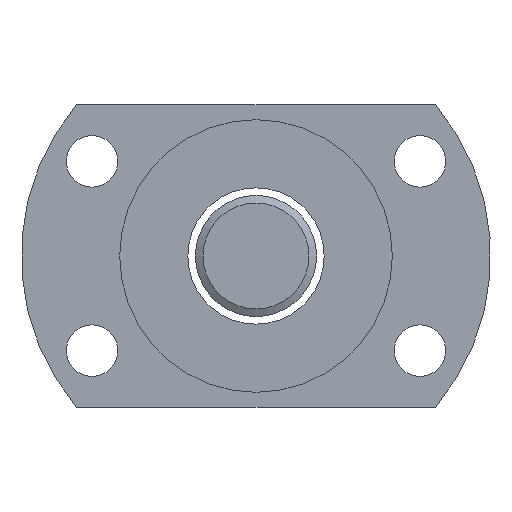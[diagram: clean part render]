
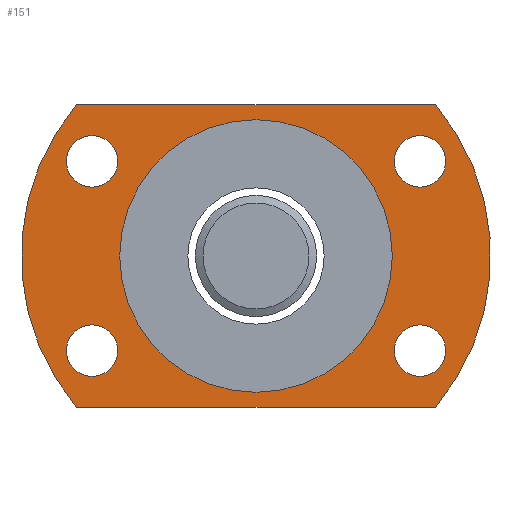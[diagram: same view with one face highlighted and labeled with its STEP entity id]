
A CAD part, left-side view. The second image highlights one B-rep face of the part: STEP entity #151.
In plain terms, the highlighted planar face has unit normal (-1, 0, 0).
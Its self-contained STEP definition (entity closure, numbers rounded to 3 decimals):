
#115=LINE('',#547,#123);
#119=LINE('',#574,#127);
#123=VECTOR('',#458,1.);
#127=VECTOR('',#488,1.);
#134=PLANE('',#416);
#151=ADVANCED_FACE('',(#191,#192,#193,#194,#195,#196),#134,.F.);
#191=FACE_BOUND('',#231,.T.);
#192=FACE_BOUND('',#232,.T.);
#193=FACE_BOUND('',#233,.T.);
#194=FACE_BOUND('',#234,.T.);
#195=FACE_BOUND('',#235,.T.);
#196=FACE_BOUND('',#236,.T.);
#231=EDGE_LOOP('',(#288,#289,#290,#291));
#232=EDGE_LOOP('',(#292));
#233=EDGE_LOOP('',(#293));
#234=EDGE_LOOP('',(#294));
#235=EDGE_LOOP('',(#295));
#236=EDGE_LOOP('',(#296));
#288=ORIENTED_EDGE('',*,*,#337,.F.);
#289=ORIENTED_EDGE('',*,*,#353,.F.);
#290=ORIENTED_EDGE('',*,*,#344,.F.);
#291=ORIENTED_EDGE('',*,*,#341,.F.);
#292=ORIENTED_EDGE('',*,*,#352,.F.);
#293=ORIENTED_EDGE('',*,*,#350,.F.);
#294=ORIENTED_EDGE('',*,*,#332,.T.);
#295=ORIENTED_EDGE('',*,*,#348,.T.);
#296=ORIENTED_EDGE('',*,*,#356,.T.);
#306=VERTEX_POINT('',#524);
#311=VERTEX_POINT('',#539);
#312=VERTEX_POINT('',#540);
#315=VERTEX_POINT('',#548);
#317=VERTEX_POINT('',#554);
#320=VERTEX_POINT('',#562);
#322=VERTEX_POINT('',#567);
#324=VERTEX_POINT('',#572);
#326=VERTEX_POINT('',#580);
#332=EDGE_CURVE('',#306,#306,#362,.T.);
#337=EDGE_CURVE('',#311,#312,#367,.T.);
#341=EDGE_CURVE('',#312,#315,#115,.T.);
#344=EDGE_CURVE('',#315,#317,#369,.T.);
#348=EDGE_CURVE('',#320,#320,#372,.T.);
#350=EDGE_CURVE('',#322,#322,#374,.T.);
#352=EDGE_CURVE('',#324,#324,#376,.T.);
#353=EDGE_CURVE('',#317,#311,#119,.T.);
#356=EDGE_CURVE('',#326,#326,#378,.T.);
#362=CIRCLE('',#385,9.);
#367=CIRCLE('',#395,15.5);
#369=CIRCLE('',#399,15.5);
#372=CIRCLE('',#403,1.7);
#374=CIRCLE('',#406,1.7);
#376=CIRCLE('',#409,1.7);
#378=CIRCLE('',#413,1.7);
#385=AXIS2_PLACEMENT_3D('',#523,#430,#431);
#395=AXIS2_PLACEMENT_3D('',#538,#450,#451);
#399=AXIS2_PLACEMENT_3D('',#553,#463,#464);
#403=AXIS2_PLACEMENT_3D('',#561,#472,#473);
#406=AXIS2_PLACEMENT_3D('',#566,#478,#479);
#409=AXIS2_PLACEMENT_3D('',#571,#484,#485);
#413=AXIS2_PLACEMENT_3D('',#579,#494,#495);
#416=AXIS2_PLACEMENT_3D('',#583,#500,#501);
#430=DIRECTION('',(1.,0.,0.));
#431=DIRECTION('',(0.,0.,-1.));
#450=DIRECTION('',(1.,0.,0.));
#451=DIRECTION('',(0.,0.,-1.));
#458=DIRECTION('',(0.,-1.,0.));
#463=DIRECTION('',(1.,0.,0.));
#464=DIRECTION('',(0.,0.,-1.));
#472=DIRECTION('',(1.,0.,0.));
#473=DIRECTION('',(0.,0.,-1.));
#478=DIRECTION('',(-1.,0.,0.));
#479=DIRECTION('',(0.,0.,1.));
#484=DIRECTION('',(-1.,0.,0.));
#485=DIRECTION('',(0.,0.,1.));
#488=DIRECTION('',(0.,1.,0.));
#494=DIRECTION('',(1.,0.,0.));
#495=DIRECTION('',(0.,0.,-1.));
#500=DIRECTION('',(1.,0.,0.));
#501=DIRECTION('',(0.,0.,-1.));
#523=CARTESIAN_POINT('',(96.64,70.814,0.));
#524=CARTESIAN_POINT('',(96.64,70.814,-9.));
#538=CARTESIAN_POINT('',(96.64,70.814,0.));
#539=CARTESIAN_POINT('',(96.64,82.656,-10.));
#540=CARTESIAN_POINT('',(96.64,82.656,10.));
#547=CARTESIAN_POINT('',(96.64,82.656,10.));
#548=CARTESIAN_POINT('',(96.64,58.971,10.));
#553=CARTESIAN_POINT('',(96.64,70.814,0.));
#554=CARTESIAN_POINT('',(96.64,58.971,-10.));
#561=CARTESIAN_POINT('',(96.64,81.639,-6.25));
#562=CARTESIAN_POINT('',(96.64,81.639,-7.95));
#566=CARTESIAN_POINT('',(96.64,59.988,-6.25));
#567=CARTESIAN_POINT('',(96.64,59.988,-4.55));
#571=CARTESIAN_POINT('',(96.64,59.988,6.25));
#572=CARTESIAN_POINT('',(96.64,59.988,7.95));
#574=CARTESIAN_POINT('',(96.64,58.971,-10.));
#579=CARTESIAN_POINT('',(96.64,81.639,6.25));
#580=CARTESIAN_POINT('',(96.64,81.639,4.55));
#583=CARTESIAN_POINT('',(96.64,70.814,0.));
